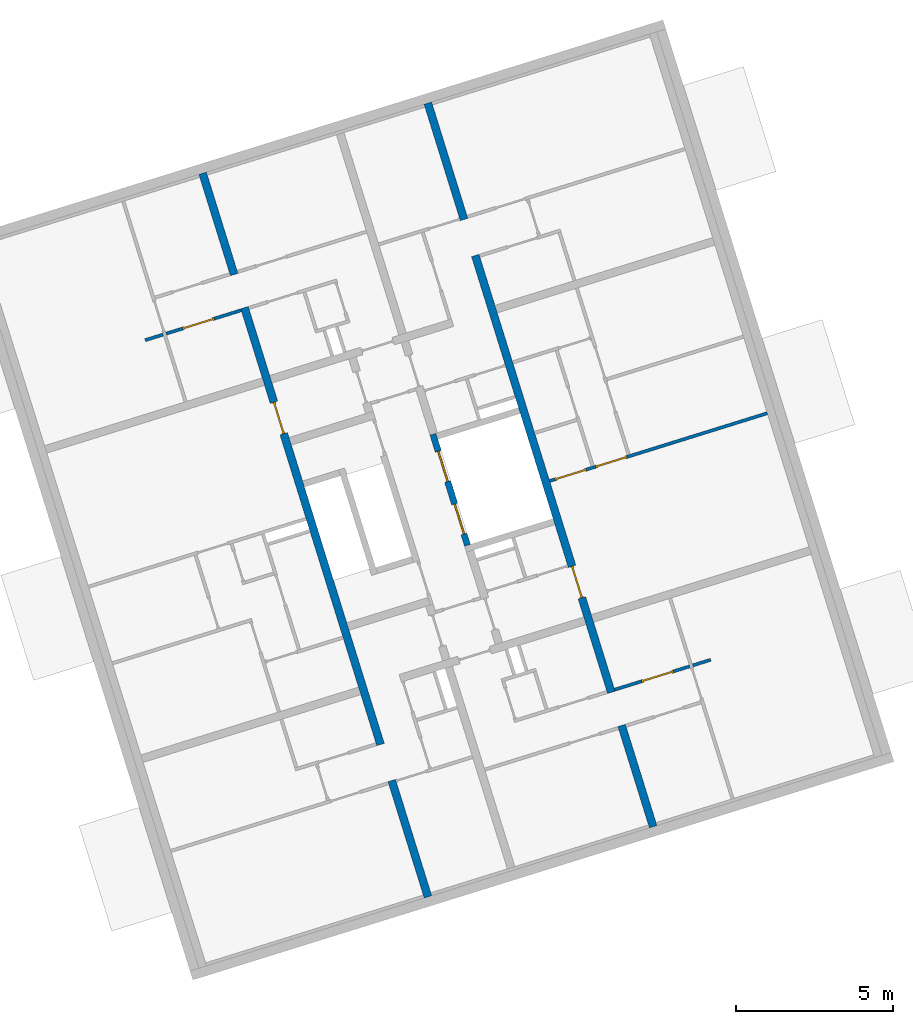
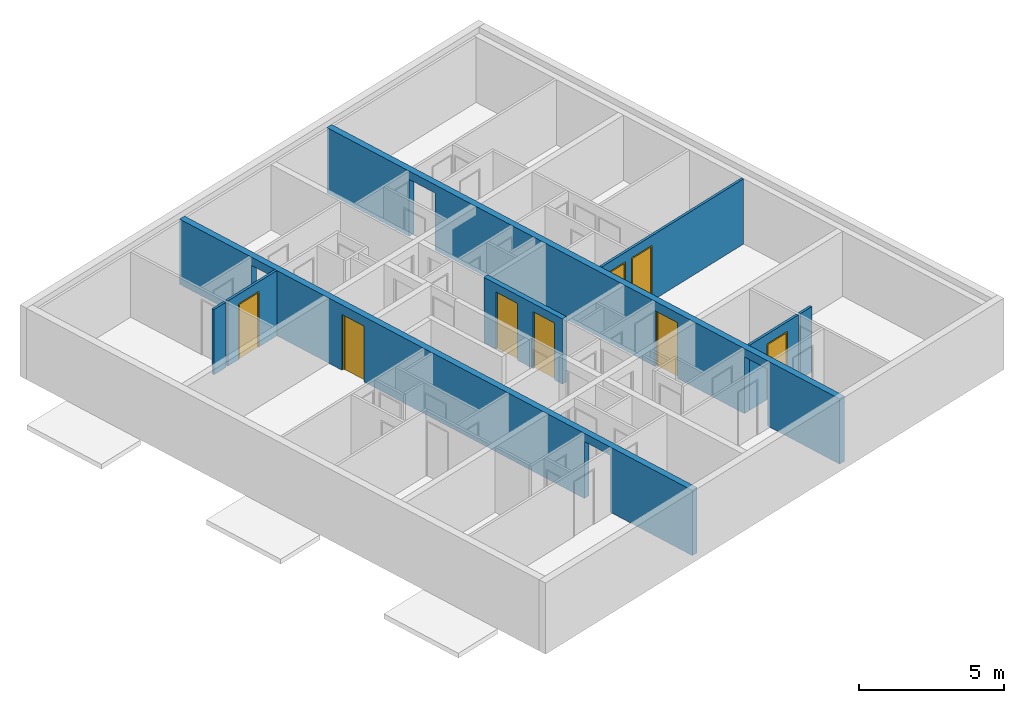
# One storey, part 8 of 9: 8 doors, 6 walls, 14 openings.
"""IFC4 building model written with IfcOpenShell, lengths in metres."""

import ifcopenshell
import ifcopenshell.guid

model = None  # the IFC model being written
_history = None  # IfcOwnerHistory: only IFC2X3 demands one
_inside = {}  # id of a spatial element -> (the spatial element, [elements in it])
_under = {}  # id of a project, library or spatial element -> (it, [spatial elements below it])
_declared = {}  # id of a project -> (the project, [libraries it declares])
_typed = {}  # id of a type object -> (the type object, [elements of that type])
_made_of = {}  # id of a material, layer set ... -> (it, [elements and type objects made of it])


def new_model(schema):
    """Start an empty IFC model of exactly this schema.

    Asked for "IFC4X3", IfcOpenShell would pick the latest addendum, in which some entities
    have other attributes; the version numbers below select the first issue.
    IFC2X3 requires an IfcOwnerHistory on every rooted entity: one is made here for all.
    """
    global model, _history
    if schema == "IFC4X3":
        model = ifcopenshell.file(schema_version=(4, 3, 0, 0))
    else:
        model = ifcopenshell.file(schema=schema)
    _inside.clear()
    _under.clear()
    _declared.clear()
    _typed.clear()
    _made_of.clear()
    _history = None
    if model.schema == "IFC2X3":
        org = make("IfcOrganization", Name="unknown")
        user = make(
            "IfcPersonAndOrganization",
            ThePerson=make("IfcPerson", FamilyName="unknown"),
            TheOrganization=org,
        )
        app = make(
            "IfcApplication",
            ApplicationDeveloper=org,
            Version="unknown",
            ApplicationFullName="unknown",
            ApplicationIdentifier="unknown",
        )
        _history = make(
            "IfcOwnerHistory",
            OwningUser=user,
            OwningApplication=app,
            ChangeAction="ADDED",
            CreationDate=0,
        )
    return model


def make(cls, **values):
    """One entity of the class cls with the attributes given. An attribute that is None is left unset."""
    return model.create_entity(
        cls, **{name: value for name, value in values.items() if value is not None}
    )


def entity(cls, *values):
    """Any entity or typed value of the class cls, its attributes in the order of the schema. None: left unset."""
    e = model.create_entity(cls)
    for i, value in enumerate(values):
        if value is not None:
            e[i] = value
    return e


def rooted(cls, **values):
    """An entity with a GlobalId (a new one), such as an element, a storey or a relation."""
    return make(cls, GlobalId=ifcopenshell.guid.new(), OwnerHistory=_history, **values)


def si_unit(unit_type, name, prefix=None):
    """IfcSIUnit, for example si_unit("LENGTHUNIT", "METRE", prefix="MILLI")."""
    return make("IfcSIUnit", UnitType=unit_type, Prefix=prefix, Name=name)


def converted_unit(unit_type, name, factor, base, dimensions=None, offset=None):
    """IfcConversionBasedUnit, such as the inch: factor (a typed value) times the base unit."""
    return make(
        "IfcConversionBasedUnit"
        if offset is None
        else "IfcConversionBasedUnitWithOffset",
        ConversionOffset=offset,
        Dimensions=None
        if dimensions is None
        else entity("IfcDimensionalExponents", *dimensions),
        UnitType=unit_type,
        Name=name,
        ConversionFactor=make(
            "IfcMeasureWithUnit", ValueComponent=factor, UnitComponent=base
        ),
    )


def assignment(units):
    """IfcUnitAssignment: the units of a project."""
    return None if units is None else make("IfcUnitAssignment", Units=units)


def point(xyz):
    """IfcCartesianPoint."""
    return None if xyz is None else make("IfcCartesianPoint", Coordinates=xyz)


def direction(xyz):
    """IfcDirection."""
    return None if xyz is None else make("IfcDirection", DirectionRatios=xyz)


def frame(location, z_axis=None, x_axis=None):
    """IfcAxis2Placement3D, a coordinate frame: its origin and axes. An axis left out is left unset."""
    return make(
        "IfcAxis2Placement3D",
        Location=point(location),
        Axis=direction(z_axis),
        RefDirection=direction(x_axis),
    )


def origin():
    """The frame at (0, 0, 0) with its axes left unset."""
    return frame((0.0, 0.0, 0.0))


def place(relative_to, where):
    """IfcLocalPlacement: puts the frame where relative to a parent placement (None: the world)."""
    return make(
        "IfcLocalPlacement", PlacementRelTo=relative_to, RelativePlacement=where
    )


def context(
    kind, dimensions, precision=None, world=None, true_north=None, identifier=None
):
    """IfcGeometricRepresentationContext, for example the 3D "Model" context."""
    return make(
        "IfcGeometricRepresentationContext",
        ContextIdentifier=identifier,
        ContextType=kind,
        CoordinateSpaceDimension=dimensions,
        Precision=precision,
        WorldCoordinateSystem=world,
        TrueNorth=true_north,
    )


def subcontext(parent, identifier, kind, view, scale=None):
    """IfcGeometricRepresentationSubContext, for example "Body" below "Model"."""
    return make(
        "IfcGeometricRepresentationSubContext",
        ContextIdentifier=identifier,
        ContextType=kind,
        ParentContext=parent,
        TargetScale=scale,
        TargetView=view,
    )


def project(units=None, contexts=None):
    """IfcProject with its units and contexts."""
    return rooted(
        "IfcProject",
        Name="project",
        RepresentationContexts=contexts,
        UnitsInContext=assignment(units),
    )


def spatial(cls, under=None, at=None, **own):
    """A site, building, storey or space (cls), placed at a placement, below another one or the project."""
    s = rooted(cls, ObjectPlacement=at, **own)
    if under is not None:
        _under.setdefault(under.id(), (under, []))[1].append(s)
    return s


def point_list(points):
    """IfcCartesianPointList2D or 3D."""
    cls = (
        "IfcCartesianPointList2D" if len(points[0]) == 2 else "IfcCartesianPointList3D"
    )
    return make(cls, CoordList=points)


def indexed_curve(points, segments=None, self_intersect=None):
    """IfcIndexedPolyCurve: lines and arcs through numbered points (the first is 1)."""
    return make(
        "IfcIndexedPolyCurve",
        Points=point_list(points),
        Segments=segments,
        SelfIntersect=self_intersect,
    )


def outline(outer, holes=None, kind="AREA"):
    """IfcArbitraryClosedProfileDef: a profile drawn as a closed curve; with holes, ...WithVoids."""
    if holes is None:
        return make("IfcArbitraryClosedProfileDef", ProfileType=kind, OuterCurve=outer)
    return make(
        "IfcArbitraryProfileDefWithVoids",
        ProfileType=kind,
        OuterCurve=outer,
        InnerCurves=holes,
    )


def extrude(swept, where, along, depth):
    """IfcExtrudedAreaSolid: the profile swept, set in the frame where, extruded along a direction by depth."""
    return make(
        "IfcExtrudedAreaSolid",
        SweptArea=swept,
        Position=where,
        ExtrudedDirection=direction(along),
        Depth=depth,
    )


def polygons(points, faces, closed=None, point_numbers=None):
    """IfcPolygonalFaceSet: a face is its outer loop, then its inner loops; points numbered from 1."""
    made = []
    for loops in faces:
        if len(loops) == 1:
            made.append(make("IfcIndexedPolygonalFace", CoordIndex=loops[0]))
        else:
            made.append(
                make(
                    "IfcIndexedPolygonalFaceWithVoids",
                    CoordIndex=loops[0],
                    InnerCoordIndices=loops[1:],
                )
            )
    return make(
        "IfcPolygonalFaceSet",
        Coordinates=point_list(points),
        Closed=closed,
        Faces=made,
        PnIndex=point_numbers,
    )


def shape(context_of_items, identifier, shape_type, items):
    """IfcShapeRepresentation: the items that make up one representation, for example the "Body"."""
    return make(
        "IfcShapeRepresentation",
        ContextOfItems=context_of_items,
        RepresentationIdentifier=identifier,
        RepresentationType=shape_type,
        Items=items,
    )


def source(mapping_origin, context_of_items, identifier, shape_type, items):
    """IfcRepresentationMap: a shape defined once, which mapped items show again and again."""
    return make(
        "IfcRepresentationMap",
        MappingOrigin=mapping_origin,
        MappedRepresentation=shape(context_of_items, identifier, shape_type, items),
    )


def transform(
    local_origin,
    x_axis=None,
    y_axis=None,
    z_axis=None,
    scale=None,
    scale2=None,
    scale3=None,
    uniform=True,
):
    """IfcCartesianTransformationOperator3D, or its non-uniform kind. x_axis, y_axis, z_axis: its Axis1, 2, 3."""
    if uniform:
        return make(
            "IfcCartesianTransformationOperator3D",
            Axis1=direction(x_axis),
            Axis2=direction(y_axis),
            LocalOrigin=point(local_origin),
            Scale=scale,
            Axis3=direction(z_axis),
        )
    return make(
        "IfcCartesianTransformationOperator3DnonUniform",
        Axis1=direction(x_axis),
        Axis2=direction(y_axis),
        LocalOrigin=point(local_origin),
        Scale=scale,
        Axis3=direction(z_axis),
        Scale2=scale2,
        Scale3=scale3,
    )


def mapped(mapping_source, mapping_target):
    """IfcMappedItem: shows the shape of a source again, moved by a transform."""
    return make(
        "IfcMappedItem", MappingSource=mapping_source, MappingTarget=mapping_target
    )


def material(Name=None, Category=None):
    """IfcMaterial."""
    return make("IfcMaterial", Name=Name, Category=Category)


def constituent(of_material, Name=None, Category=None, fraction=None):
    """IfcMaterialConstituent: one of the materials an element consists of."""
    return make(
        "IfcMaterialConstituent",
        Name=Name,
        Material=of_material,
        Fraction=fraction,
        Category=Category,
    )


def constituent_set(constituents=None, Name=None):
    """IfcMaterialConstituentSet."""
    return make(
        "IfcMaterialConstituentSet", Name=Name, MaterialConstituents=constituents
    )


def made_of(thing, what):
    """Note that an element or type object is made of a material, layer set ...; save() writes the relation."""
    if what is not None:
        _made_of.setdefault(what.id(), (what, []))[1].append(thing)
    return thing


def type_object(cls, material=None, **own):
    """A type object (cls), such as IfcWallType, which elements share."""
    return made_of(rooted(cls, **own), material)


def type_shapes(of_type, sources):
    """Give a type object the sources (RepresentationMaps) that its elements show as mapped items."""
    of_type.RepresentationMaps = sources


def element(
    cls,
    number,
    at=None,
    inside=None,
    cuts=None,
    type_object=None,
    material=None,
    context=None,
    identifier="Body",
    shape_type=None,
    held_by="IfcProductDefinitionShape",
    body=None,
    shapes=None,
    **own,
):
    """One element of the class cls, such as IfcWall. Its Tag is "e" and its number.

    at: its placement. inside: the storey or other place that contains it. cuts: it is an
    opening in that element (IfcRelVoidsElement). A single representation is given by context,
    identifier, shape_type and body (its items); several are given by shapes. held_by: the class
    of the entity that holds the representations. save() writes the other relations.
    """
    e = rooted(cls, Tag="e%d" % number, ObjectPlacement=at, **own)
    if body is not None:
        shapes = [shape(context, identifier, shape_type, body)]
    if shapes is not None:
        e.Representation = make(held_by, Representations=shapes)
    if inside is not None:
        _inside.setdefault(inside.id(), (inside, []))[1].append(e)
    if cuts is not None:
        rooted(
            "IfcRelVoidsElement", RelatingBuildingElement=cuts, RelatedOpeningElement=e
        )
    if type_object is not None:
        _typed.setdefault(type_object.id(), (type_object, []))[1].append(e)
    return made_of(e, material)


def fill(opening, filler):
    """IfcRelFillsElement: the door or window that sits in an opening."""
    return rooted(
        "IfcRelFillsElement",
        RelatingOpeningElement=opening,
        RelatedBuildingElement=filler,
    )


def aggregate(whole, parts):
    """IfcRelAggregates: a whole, such as a stair, and the parts it consists of."""
    return rooted("IfcRelAggregates", RelatingObject=whole, RelatedObjects=parts)


def save(model, path):
    """Write the relations noted so far, then the file.

    IfcRelAggregates (storeys below a building ...), IfcRelContainedInSpatialStructure (elements
    in a storey), IfcRelDefinesByType, IfcRelAssociatesMaterial and IfcRelDeclares: one each for
    every whole, place, type object, material and project.
    """
    for whole, parts in _under.values():
        aggregate(whole, parts)
    for where, things in _inside.values():
        rooted(
            "IfcRelContainedInSpatialStructure",
            RelatedElements=things,
            RelatingStructure=where,
        )
    for kind, things in _typed.values():
        rooted("IfcRelDefinesByType", RelatedObjects=things, RelatingType=kind)
    for what, things in _made_of.values():
        rooted("IfcRelAssociatesMaterial", RelatedObjects=things, RelatingMaterial=what)
    for by, libraries in _declared.values():
        rooted("IfcRelDeclares", RelatingContext=by, RelatedDefinitions=libraries)
    model.write(path)


model = new_model("IFC4")

# Units and contexts
model_context = context("Model", 3, precision=1e-05, world=origin(), true_north=direction((6.12323399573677e-17, 1.0)))
body_context = subcontext(model_context, "Body", "Model", "MODEL_VIEW")
ifc_project = project(units=[si_unit("LENGTHUNIT", "METRE"), si_unit("AREAUNIT", "SQUARE_METRE"), converted_unit("PLANEANGLEUNIT", "DEGREE", entity("IfcPlaneAngleMeasure", 0.0174532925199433), si_unit("PLANEANGLEUNIT", "RADIAN"), dimensions=[0, 0, 0, 0, 0, 0, 0]), si_unit("VOLUMEUNIT", "CUBIC_METRE")], contexts=[model_context])

# Site, building, storey
site_placement = place(None, frame((13.1347999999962, 11.9886000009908, 0.0), z_axis=(0.0, 0.0, 1.0), x_axis=(0.954770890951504, 0.297342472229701, 0.0)))
site = spatial("IfcSite", under=ifc_project, at=site_placement, Name="Schiehaven", CompositionType="ELEMENT")
building_placement = place(site_placement, origin())
building = spatial("IfcBuilding", under=site, at=building_placement, Name="VORM huis", CompositionType="ELEMENT")
storey_placement = place(building_placement, frame((0.0, 0.0, 24.9)))
storey = spatial("IfcBuildingStorey", under=building, at=storey_placement, Name="08 achtste verdieping", CompositionType="ELEMENT", Elevation=24.9)

# Wall, openings, door
ifc_material_1 = material(Name="beton_gewapend_ihw", Category="Miscellaneous")
wall_type_1 = type_object("IfcWallType", Name="Basic Wall:28_WA_skelet_wand 250mm_gen", PredefinedType="STANDARD")
wall_1_placement = place(storey_placement, frame((72.5, 5.0, 0.0), z_axis=(0.0, 0.0, 1.0), x_axis=(0.0, 1.0, 0.0)))
wall_1 = element("IfcWall", 1, at=wall_1_placement, inside=storey, type_object=wall_type_1, material=ifc_material_1, Name="Constructieve wand", ObjectType="Wand", PredefinedType="NOTDEFINED", context=body_context, shape_type="Tessellation", body=[
    polygons([(8.67499999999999, -0.125000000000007, 2.34999999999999), (8.67499999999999, -0.125000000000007, 0.0), (19.0250000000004, -0.125000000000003, 0.0), (19.0250000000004, -0.125000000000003, 2.4), (20.2250000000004, -0.125000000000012, 2.4), (20.2250000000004, -0.125000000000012, 0.0), (24.1, -0.125000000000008, 0.0), (24.1, -0.125000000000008, 2.75), (0.0, -0.125000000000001, 2.75), (1.08286712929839e-15, -0.125000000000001, 0.0), (3.37500000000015, -0.125000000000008, 0.0), (3.37500000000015, -0.125000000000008, 2.4), (4.47500000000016, -0.124999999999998, 2.4), (4.47500000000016, -0.124999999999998, 0.0), (7.62499999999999, -0.125000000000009, 0.0), (7.62499999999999, -0.125000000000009, 2.34999999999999), (19.0250000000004, 0.124999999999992, 0.0), (8.675, 0.124999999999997, 0.0), (8.675, 0.124999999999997, 2.34999999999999), (7.62499999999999, 0.125000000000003, 2.34999999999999), (7.62499999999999, 0.125000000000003, 0.0), (7.025, 0.124999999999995, 0.0), (6.775, 0.12499999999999, 0.0), (4.47500000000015, 0.124999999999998, 0.0), (4.47500000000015, 0.124999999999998, 2.4), (3.37500000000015, 0.124999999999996, 2.4), (3.37500000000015, 0.124999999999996, 0.0), (2.16573425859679e-15, 0.124999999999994, 0.0), (2.16573425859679e-15, 0.124999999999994, 2.75), (6.775, 0.12499999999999, 2.75), (7.025, 0.124999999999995, 2.75), (24.1, 0.124999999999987, 2.75), (24.1, 0.124999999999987, 0.0), (20.2250000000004, 0.124999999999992, 0.0), (20.2250000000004, 0.124999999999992, 2.4), (19.0250000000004, 0.124999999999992, 2.4)], [[[1, 2, 3, 4, 5, 6, 7, 8, 9, 10, 11, 12, 13, 14, 15, 16]], [[17, 18, 19, 20, 21, 22, 23, 24, 25, 26, 27, 28, 29, 30, 31, 32, 33, 34, 35, 36]], [[10, 28, 27, 11]], [[8, 7, 33, 32]], [[9, 8, 32, 31, 30, 29]], [[10, 9, 29, 28]], [[12, 26, 25, 13]], [[26, 12, 11, 27]], [[13, 25, 24, 14]], [[4, 36, 35, 5]], [[36, 4, 3, 17]], [[5, 35, 34, 6]], [[21, 20, 16, 15]], [[19, 18, 2, 1]], [[20, 19, 1, 16]], [[15, 14, 24, 23, 22, 21]], [[3, 2, 18, 17]], [[33, 7, 6, 34]]], closed=True),
])
opening_1_placement = place(wall_1_placement, origin())
element("IfcOpeningElement", 2, at=opening_1_placement, cuts=wall_1, Name="Constructieve wand", PredefinedType="OPENING", context=body_context, shape_type="SweptSolid", body=[
    extrude(outline(indexed_curve([(-1.2, -0.550000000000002), (1.2, -0.550000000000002), (1.2, 0.550000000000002), (-1.2, 0.550000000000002), (-1.2, -0.550000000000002)], self_intersect=False)), frame((3.92500000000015, -0.124999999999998, 1.2), z_axis=(0.0, 1.0, 0.0), x_axis=(0.0, 0.0, -1.0)), (0.0, 0.0, 1.0), 0.249999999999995),
])
opening_2_placement = place(wall_1_placement, origin())
element("IfcOpeningElement", 3, at=opening_2_placement, cuts=wall_1, Name="Constructieve wand", PredefinedType="OPENING", context=body_context, shape_type="SweptSolid", body=[
    extrude(outline(indexed_curve([(-1.2, -0.599999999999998), (1.2, -0.599999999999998), (1.2, 0.599999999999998), (-1.2, 0.599999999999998), (-1.2, -0.599999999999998)], self_intersect=False)), frame((19.6250000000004, -0.125000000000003, 1.2), z_axis=(0.0, 1.0, 0.0), x_axis=(0.0, 0.0, -1.0)), (0.0, 0.0, 1.0), 0.249999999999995),
])
opening_3_placement = place(wall_1_placement, frame((7.62499999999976, -0.124999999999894, 0.0)))
opening_3 = element("IfcOpeningElement", 4, at=opening_3_placement, cuts=wall_1, Name="Binnendeur", PredefinedType="OPENING", context=body_context, shape_type="SweptSolid", body=[
    extrude(outline(indexed_curve([(2.34999999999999, 1.08286712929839e-15), (2.34999999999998, 1.05), (0.0, 1.05), (2.16573425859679e-15, 1.08286712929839e-15), (2.34999999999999, 1.08286712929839e-15)], self_intersect=False)), frame((0.0, 0.0, 0.0), z_axis=(0.0, 1.0, 0.0), x_axis=(0.0, 0.0, 1.0)), (0.0, 0.0, 1.0), 0.25),
])
ifc_material_2 = material(Name="PD_a_binnenwandopeningen", Category="Miscellaneous")
ifc_constituent_1 = constituent(ifc_material_2, Name="PD_a_binnenwandopeningen", Category="Miscellaneous")
ifc_material_3 = material(Name="metaal_aluminium_ntb", Category="Miscellaneous")
ifc_constituent_2 = constituent(ifc_material_3, Name="metaal_aluminium_ntb", Category="Miscellaneous")
ifc_constituent_set_1 = constituent_set(constituents=[ifc_constituent_1, ifc_constituent_2])
ifc_constituent_3 = constituent(ifc_material_2, Name="PD_a_binnenwandopeningen", Category="Miscellaneous")
ifc_constituent_4 = constituent(ifc_material_3, Name="Panel", Category="Miscellaneous")
ifc_constituent_set_2 = constituent_set(constituents=[ifc_constituent_3, ifc_constituent_4])
door_type_1 = type_object("IfcDoorType", Name="32_DO_binnendeur enkel:binnendeur", OperationType="REVOLVING", PredefinedType="DOOR", material=ifc_constituent_set_2)
shared_shape_1 = source(origin(), body_context, "Body", "SweptSolid", [
    extrude(outline(indexed_curve([(0.475, -1.16249999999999), (0.525000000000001, -1.16249999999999), (0.525000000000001, 1.18749999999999), (-0.525000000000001, 1.18749999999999), (-0.525000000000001, -1.16249999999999), (-0.475, -1.16249999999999), (-0.475, 1.13749999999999), (0.475, 1.13749999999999), (0.475, -1.16249999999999)], self_intersect=False)), frame((0.525000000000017, 0.174999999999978, 1.16249999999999), z_axis=(0.0, -1.0, 0.0), x_axis=(1.0, 0.0, 0.0)), (0.0, 0.0, 1.0), 0.1),
    extrude(outline(indexed_curve([(-0.475, -0.025), (0.475, -0.025), (0.475, 0.025), (-0.475, 0.025), (-0.475, -0.025)], self_intersect=False)), frame((0.525000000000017, 0.12499999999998, 0.0)), (0.0, 0.0, 1.0), 2.29999999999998),
])
type_shapes(door_type_1, [shared_shape_1])
door_1_placement = place(opening_3_placement, origin())
door_1 = element("IfcDoor", 5, at=door_1_placement, inside=storey, type_object=door_type_1, material=ifc_constituent_set_1, Name="Binnendeur", ObjectType="Deur", OperationType="REVOLVING", OverallHeight=2.34999999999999, OverallWidth=1.05, PredefinedType="DOOR", context=body_context, shape_type="MappedRepresentation", body=[
    mapped(shared_shape_1, transform((0.0, 0.0, 0.0), scale=1.0)),
])
fill(opening_3, door_1)

wall_2_placement = place(storey_placement, frame((65.0, 29.0999999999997, 0.0), z_axis=(0.0, 0.0, 1.0), x_axis=(0.0, -1.0, 0.0)))
wall_2 = element("IfcWall", 6, at=wall_2_placement, inside=storey, type_object=wall_type_1, material=ifc_material_1, Name="Constructieve wand", ObjectType="Wand", PredefinedType="NOTDEFINED", context=body_context, shape_type="Tessellation", body=[
    polygons([(8.67499999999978, -0.125000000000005, 2.34999999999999), (8.67499999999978, -0.125000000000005, 0.0), (19.0249999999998, -0.125000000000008, 0.0), (19.0249999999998, -0.125000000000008, 2.4), (20.2249999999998, -0.125000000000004, 2.4), (20.2249999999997, -0.125000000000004, 0.0), (24.1, -0.125000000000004, 0.0), (24.1, -0.125000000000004, 2.75), (4.33146851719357e-15, -0.124999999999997, 2.75), (4.33146851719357e-15, -0.124999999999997, 0.0), (3.37499999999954, -0.125000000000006, 0.0), (3.37499999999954, -0.125000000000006, 2.4), (4.47499999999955, -0.125000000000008, 2.4), (4.47499999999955, -0.125000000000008, 0.0), (7.62499999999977, -0.124999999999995, 0.0), (7.62499999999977, -0.124999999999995, 2.34999999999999), (19.0249999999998, 0.124999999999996, 0.0), (8.67499999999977, 0.124999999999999, 0.0), (8.67499999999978, 0.124999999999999, 2.34999999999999), (7.62499999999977, 0.125, 2.34999999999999), (7.62499999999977, 0.125, 0.0), (7.02500000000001, 0.124999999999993, 0.0), (6.77500000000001, 0.124999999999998, 0.0), (4.47499999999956, 0.124999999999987, 0.0), (4.47499999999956, 0.124999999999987, 2.4), (3.37499999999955, 0.124999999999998, 2.4), (3.37499999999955, 0.124999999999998, 0.0), (0.0, 0.124999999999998, 0.0), (0.0, 0.124999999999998, 2.75), (6.77500000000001, 0.124999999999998, 2.75), (7.02500000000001, 0.124999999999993, 2.75), (24.1, 0.125, 2.75), (24.1, 0.125, 0.0), (20.2249999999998, 0.125, 0.0), (20.2249999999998, 0.125, 2.4), (19.0249999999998, 0.124999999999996, 2.4)], [[[1, 2, 3, 4, 5, 6, 7, 8, 9, 10, 11, 12, 13, 14, 15, 16]], [[17, 18, 19, 20, 21, 22, 23, 24, 25, 26, 27, 28, 29, 30, 31, 32, 33, 34, 35, 36]], [[10, 28, 27, 11]], [[8, 7, 33, 32]], [[9, 8, 32, 31, 30, 29]], [[10, 9, 29, 28]], [[12, 26, 25, 13]], [[26, 12, 11, 27]], [[13, 25, 24, 14]], [[4, 36, 35, 5]], [[36, 4, 3, 17]], [[5, 35, 34, 6]], [[21, 20, 16, 15]], [[19, 18, 2, 1]], [[20, 19, 1, 16]], [[15, 14, 24, 23, 22, 21]], [[3, 2, 18, 17]], [[33, 7, 6, 34]]], closed=True),
])
opening_4_placement = place(wall_2_placement, origin())
element("IfcOpeningElement", 7, at=opening_4_placement, cuts=wall_2, Name="Constructieve wand", PredefinedType="OPENING", context=body_context, shape_type="SweptSolid", body=[
    extrude(outline(indexed_curve([(-1.2, -0.550000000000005), (1.2, -0.550000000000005), (1.2, 0.550000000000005), (-1.2, 0.550000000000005), (-1.2, -0.550000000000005)], self_intersect=False)), frame((3.92499999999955, -0.125000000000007, 1.2), z_axis=(0.0, 1.0, 0.0), x_axis=(0.0, 0.0, -1.0)), (0.0, 0.0, 1.0), 0.249999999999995),
])
opening_5_placement = place(wall_2_placement, origin())
element("IfcOpeningElement", 8, at=opening_5_placement, cuts=wall_2, Name="Constructieve wand", PredefinedType="OPENING", context=body_context, shape_type="SweptSolid", body=[
    extrude(outline(indexed_curve([(-1.2, -0.599999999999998), (1.2, -0.599999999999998), (1.2, 0.599999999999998), (-1.2, 0.599999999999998), (-1.2, -0.599999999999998)], self_intersect=False)), frame((19.6249999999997, -0.124999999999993, 1.2), z_axis=(0.0, 1.0, 0.0), x_axis=(0.0, 0.0, -1.0)), (0.0, 0.0, 1.0), 0.249999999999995),
])
opening_6_placement = place(wall_2_placement, frame((7.62499999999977, -0.125000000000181, 0.0)))
opening_6 = element("IfcOpeningElement", 9, at=opening_6_placement, cuts=wall_2, Name="Binnendeur", PredefinedType="OPENING", context=body_context, shape_type="SweptSolid", body=[
    extrude(outline(indexed_curve([(2.34999999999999, 2.56961408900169e-29), (2.34999999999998, 1.05), (0.0, 1.05), (2.16573425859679e-15, 2.56961408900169e-29), (2.34999999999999, 2.56961408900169e-29)], self_intersect=False)), frame((0.0, 0.0, 0.0), z_axis=(0.0, 1.0, 0.0), x_axis=(0.0, 0.0, 1.0)), (0.0, 0.0, 1.0), 0.25),
])
ifc_constituent_5 = constituent(ifc_material_2, Name="PD_a_binnenwandopeningen", Category="Miscellaneous")
ifc_constituent_6 = constituent(ifc_material_3, Name="metaal_aluminium_ntb", Category="Miscellaneous")
ifc_constituent_set_3 = constituent_set(constituents=[ifc_constituent_5, ifc_constituent_6])
door_2_placement = place(opening_6_placement, origin())
door_2 = element("IfcDoor", 10, at=door_2_placement, inside=storey, type_object=door_type_1, material=ifc_constituent_set_3, Name="Binnendeur", ObjectType="Deur", OperationType="REVOLVING", OverallHeight=2.34999999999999, OverallWidth=1.05, PredefinedType="DOOR", context=body_context, shape_type="MappedRepresentation", body=[
    mapped(shared_shape_1, transform((0.0, 0.0, 0.0), scale=1.0)),
])
fill(opening_6, door_2)

# Wall, openings, doors
ifc_material_4 = material(Name="beton_gewapend_prefab-element", Category="Miscellaneous")
wall_type_2 = type_object("IfcWallType", Name="Basic Wall:28_WA_skelet_wand 200mm_gen", PredefinedType="STANDARD")
wall_3_placement = place(storey_placement, frame((69.5249999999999, 15.2999999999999, 0.0), z_axis=(0.0, 0.0, 1.0), x_axis=(0.0, 1.0, 0.0)))
wall_3 = element("IfcWall", 11, at=wall_3_placement, inside=storey, type_object=wall_type_2, material=ifc_material_4, Name="Constructieve wand", ObjectType="Wand", PredefinedType="NOTDEFINED", context=body_context, shape_type="Tessellation", body=[
    polygons([(3.70000000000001, -0.0999999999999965, 2.75), (3.50000000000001, -0.0999999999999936, 2.75), (2.16573425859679e-15, -0.0999999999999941, 2.75), (2.16573425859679e-15, -0.0999999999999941, 0.0), (0.3749999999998, -0.0999999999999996, 0.0), (0.3749999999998, -0.0999999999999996, 2.39999999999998), (1.3749999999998, -0.099999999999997, 2.39999999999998), (1.3749999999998, -0.099999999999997, 0.0), (2.1249999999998, -0.100000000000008, 0.0), (2.1249999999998, -0.0999999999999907, 2.39999999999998), (3.1249999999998, -0.0999999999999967, 2.39999999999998), (3.1249999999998, -0.0999999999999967, 0.0), (3.50000000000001, -0.0999999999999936, 0.0), (3.70000000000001, -0.0999999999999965, 0.0), (4.33146851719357e-15, 0.100000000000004, 2.75), (3.70000000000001, 0.0999999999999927, 2.75), (3.70000000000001, 0.0999999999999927, 0.0), (3.1249999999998, 0.100000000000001, 0.0), (3.1249999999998, 0.100000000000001, 2.39999999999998), (2.1249999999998, 0.0999999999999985, 2.39999999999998), (2.1249999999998, 0.0999999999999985, 0.0), (1.3749999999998, 0.10000000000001, 0.0), (1.3749999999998, 0.10000000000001, 2.39999999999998), (0.374999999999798, 0.0999999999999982, 2.39999999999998), (0.374999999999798, 0.0999999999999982, 0.0), (4.33146851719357e-15, 0.100000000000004, 0.0)], [[[1, 2, 3, 4, 5, 6, 7, 8, 9, 10, 11, 12, 13, 14]], [[15, 16, 17, 18, 19, 20, 21, 22, 23, 24, 25, 26]], [[5, 4, 26, 25]], [[3, 2, 1, 16, 15]], [[7, 23, 22, 8]], [[24, 6, 5, 25]], [[23, 7, 6, 24]], [[11, 19, 18, 12]], [[20, 10, 9, 21]], [[19, 11, 10, 20]], [[1, 14, 17, 16]], [[4, 3, 15, 26]], [[8, 22, 21, 9]], [[17, 14, 13, 12, 18]]], closed=True),
])
opening_7_placement = place(wall_3_placement, frame((-15.2999999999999, 69.5249999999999, 0.0), z_axis=(0.0, 0.0, 1.0), x_axis=(0.0, -1.0, 0.0)))
opening_7 = element("IfcOpeningElement", 12, at=opening_7_placement, cuts=wall_3, Name="Brandweerlift", PredefinedType="OPENING", context=body_context, shape_type="SweptSolid", body=[
    extrude(outline(indexed_curve([(-1.19999999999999, -0.500000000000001), (1.19999999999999, -0.500000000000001), (1.19999999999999, 0.499999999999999), (-1.19999999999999, 0.499999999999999), (-1.19999999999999, -0.500000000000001)], self_intersect=False)), frame((70.0126380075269, 16.1749999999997, 1.19999999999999), z_axis=(-1.0, 0.0, 0.0), x_axis=(0.0, 0.0, -1.0)), (0.0, 0.0, 1.0), 0.756310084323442),
])
opening_8_placement = place(wall_3_placement, frame((-15.2999999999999, 69.5249999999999, 0.0), z_axis=(0.0, 0.0, 1.0), x_axis=(0.0, -1.0, 0.0)))
opening_8 = element("IfcOpeningElement", 13, at=opening_8_placement, cuts=wall_3, Name="Brandweerlift", PredefinedType="OPENING", context=body_context, shape_type="SweptSolid", body=[
    extrude(outline(indexed_curve([(-1.19999999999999, -0.500000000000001), (1.19999999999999, -0.500000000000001), (1.19999999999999, 0.499999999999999), (-1.19999999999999, 0.499999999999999), (-1.19999999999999, -0.500000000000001)], self_intersect=False)), frame((70.0126380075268, 17.9249999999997, 1.19999999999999), z_axis=(-1.0, 0.0, 0.0), x_axis=(0.0, 0.0, -1.0)), (0.0, 0.0, 1.0), 0.756310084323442),
])
door_type_2 = type_object("IfcDoorType", Name="66_WI_liftdeur:brandweerlift - tweezijdig toegankelijk", OperationType="NOTDEFINED", PredefinedType="DOOR", material=ifc_material_3)
shared_shape_2 = source(origin(), body_context, "Body", "SweptSolid", [
    extrude(outline(indexed_curve([(-0.25, -0.0250000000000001), (0.25, -0.0249999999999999), (0.25, 0.0250000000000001), (-0.25, 0.0249999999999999), (-0.25, -0.0250000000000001)], self_intersect=False)), frame((0.750000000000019, -0.28763800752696, 0.0)), (0.0, 0.0, 1.0), 2.39999999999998),
    extrude(outline(indexed_curve([(-0.25, -0.0250000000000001), (0.25, -0.0249999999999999), (0.25, 0.0250000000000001), (-0.25, 0.0249999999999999), (-0.25, -0.0250000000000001)], self_intersect=False)), frame((0.250000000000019, -0.287638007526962, 0.0)), (0.0, 0.0, 1.0), 2.39999999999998),
])
type_shapes(door_type_2, [shared_shape_2])
door_3_placement = place(opening_7_placement, frame((69.2373619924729, 15.6749999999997, 0.0), z_axis=(0.0, 0.0, 1.0), x_axis=(0.0, 1.0, 0.0)))
door_3 = element("IfcDoor", 14, at=door_3_placement, inside=storey, type_object=door_type_2, material=ifc_material_3, Name="Brandweerlift", ObjectType="Transport", OperationType="NOTDEFINED", OverallHeight=2.39999999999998, OverallWidth=1.0, PredefinedType="DOOR", context=body_context, shape_type="MappedRepresentation", body=[
    mapped(shared_shape_2, transform((0.0, 0.0, 0.0), scale=1.0)),
])
fill(opening_7, door_3)
door_4_placement = place(opening_8_placement, frame((69.2373619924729, 17.4249999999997, 0.0), z_axis=(0.0, 0.0, 1.0), x_axis=(0.0, 1.0, 0.0)))
door_4 = element("IfcDoor", 15, at=door_4_placement, inside=storey, type_object=door_type_2, material=ifc_material_3, Name="Brandweerlift", ObjectType="Transport", OperationType="NOTDEFINED", OverallHeight=2.39999999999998, OverallWidth=1.0, PredefinedType="DOOR", context=body_context, shape_type="MappedRepresentation", body=[
    mapped(shared_shape_2, transform((0.0, 0.0, 0.0), scale=1.0)),
])
fill(opening_8, door_4)

# Wall, openings, door
ifc_material_5 = material(Name="ntb_ntb_ntb", Category="Miscellaneous")
wall_type_3 = type_object("IfcWallType", Name="Basic Wall:22_WA_afbouw_binnenwand 100mm_gen", PredefinedType="STANDARD")
wall_4_placement = place(storey_placement, frame((72.625, 9.52499999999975, 0.0)))
wall_4 = element("IfcWall", 16, at=wall_4_placement, inside=storey, type_object=wall_type_3, material=ifc_material_5, Name="Binnenwand", ObjectType="Wand", PredefinedType="NOTDEFINED", context=body_context, shape_type="Tessellation", body=[
    polygons([(-5.76685161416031e-15, -0.0500000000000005, 2.75), (-5.76685161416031e-15, -0.0500000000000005, 0.0), (0.899999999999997, -0.0500000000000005, 0.0), (0.899999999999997, -0.0500000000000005, 2.34999999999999), (1.95, -0.0500000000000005, 2.34999999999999), (1.95, -0.0500000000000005, 0.0), (2.50000000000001, -0.0500000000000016, 0.0), (2.50000000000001, -0.0500000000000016, 2.75), (-4.09055660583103e-15, 0.0499999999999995, 0.0), (0.899999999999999, 0.0500000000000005, 0.0), (-4.09055660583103e-15, 0.0499999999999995, 2.75), (1.95, 0.0500000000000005, 2.34999999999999), (1.95, 0.0500000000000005, 0.0), (0.899999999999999, 0.0500000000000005, 2.34999999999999), (2.50000000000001, 0.0499999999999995, 0.0), (2.50000000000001, 0.0499999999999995, 2.75)], [[[1, 2, 3, 4, 5, 6, 7, 8]], [[2, 9, 10, 3]], [[2, 1, 11, 9]], [[6, 5, 12, 13]], [[4, 3, 10, 14]], [[5, 4, 14, 12]], [[8, 7, 15, 16]], [[11, 1, 8, 16]], [[6, 13, 15, 7]], [[9, 11, 16, 15, 13, 12, 14, 10]]], closed=True),
    polygons([(3.20000000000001, 0.0499999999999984, 2.75), (3.20000000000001, 0.0499999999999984, 0.0), (2.60000000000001, 0.0499999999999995, 0.0), (2.60000000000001, 0.0499999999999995, 2.75), (3.20000000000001, -0.0500000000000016, 2.75), (3.20000000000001, -0.0500000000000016, 0.0), (2.60000000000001, -0.0500000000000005, 2.75), (2.60000000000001, -0.0500000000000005, 0.0)], [[[1, 2, 3, 4]], [[5, 6, 2, 1]], [[5, 1, 4, 7]], [[8, 7, 4, 3]], [[2, 6, 8, 3]], [[6, 5, 7, 8]]], closed=True),
])
opening_9_placement = place(storey_placement, frame((72.625, 9.52499999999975, 0.0)))
element("IfcOpeningElement", 17, at=opening_9_placement, cuts=wall_4, Name="Binnenwand:1", PredefinedType="OPENING", context=body_context, shape_type="SweptSolid", body=[
    extrude(outline(indexed_curve([(-1.375, -0.0500000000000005), (1.375, -0.0500000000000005), (1.375, 0.0500000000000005), (-1.375, 0.0499999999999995), (-1.375, -0.0500000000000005)], self_intersect=False)), frame((2.50000000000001, 0.0, 1.375), z_axis=(1.0, 0.0, 0.0), x_axis=(0.0, 0.0, -1.0)), (0.0, 0.0, 1.0), 0.100000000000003),
])
opening_10_placement = place(wall_4_placement, frame((1.95, 0.0500000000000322, 0.0)))
opening_10 = element("IfcOpeningElement", 18, at=opening_10_placement, cuts=wall_4, Name="Binnendeur", PredefinedType="OPENING", context=body_context, shape_type="SweptSolid", body=[
    extrude(outline(indexed_curve([(2.34999999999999, 4.67982478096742e-30), (2.34999999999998, 1.05), (0.0, 1.05), (2.16573425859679e-15, 4.67982478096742e-30), (2.34999999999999, 4.67982478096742e-30)], self_intersect=False)), frame((0.0, 0.0, 0.0), z_axis=(0.0, -1.0, 0.0), x_axis=(0.0, 0.0, 1.0)), (0.0, 0.0, 1.0), 0.1),
])
ifc_constituent_7 = constituent(ifc_material_2, Name="PD_a_binnenwandopeningen", Category="Miscellaneous")
ifc_constituent_8 = constituent(ifc_material_3, Name="metaal_aluminium_ntb", Category="Miscellaneous")
ifc_constituent_set_4 = constituent_set(constituents=[ifc_constituent_7, ifc_constituent_8])
ifc_constituent_9 = constituent(ifc_material_2, Name="PD_a_binnenwandopeningen", Category="Miscellaneous")
ifc_constituent_10 = constituent(ifc_material_3, Name="Panel", Category="Miscellaneous")
ifc_constituent_set_5 = constituent_set(constituents=[ifc_constituent_9, ifc_constituent_10])
door_type_3 = type_object("IfcDoorType", Name="32_DO_binnendeur enkel:binnendeur", OperationType="REVOLVING", PredefinedType="DOOR", material=ifc_constituent_set_5)
shared_shape_3 = source(origin(), body_context, "Body", "SweptSolid", [
    extrude(outline(indexed_curve([(0.475, -1.16249999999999), (0.525, -1.16249999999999), (0.525, 1.18749999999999), (-0.525, 1.18749999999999), (-0.525, -1.16249999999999), (-0.475, -1.16249999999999), (-0.475, 1.13749999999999), (0.475, 1.13749999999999), (0.475, -1.16249999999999)], self_intersect=False)), frame((0.525000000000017, 0.100000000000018, 1.16249999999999), z_axis=(0.0, -1.0, 0.0), x_axis=(1.0, 0.0, 0.0)), (0.0, 0.0, 1.0), 0.1),
    extrude(outline(indexed_curve([(-0.475, -0.025), (0.475, -0.025), (0.475, 0.025), (-0.475, 0.025), (-0.475, -0.025)], self_intersect=False)), frame((0.525000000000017, 0.0499999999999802, 0.0)), (0.0, 0.0, 1.0), 2.29999999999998),
])
type_shapes(door_type_3, [shared_shape_3])
door_5_placement = place(opening_10_placement, frame((0.0, 0.0, 0.0), z_axis=(0.0, 0.0, 1.0), x_axis=(-1.0, 0.0, 0.0)))
door_5 = element("IfcDoor", 19, at=door_5_placement, inside=storey, type_object=door_type_3, material=ifc_constituent_set_4, Name="Binnendeur", ObjectType="Deur", OperationType="REVOLVING", OverallHeight=2.34999999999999, OverallWidth=1.05, PredefinedType="DOOR", context=body_context, shape_type="MappedRepresentation", body=[
    mapped(shared_shape_3, transform((0.0, 0.0, 0.0), scale=1.0)),
])
fill(opening_10, door_5)

wall_5_placement = place(storey_placement, frame((64.8749999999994, 24.5750000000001, 0.0), z_axis=(0.0, 0.0, 1.0), x_axis=(-1.0, 0.0, 0.0)))
wall_5 = element("IfcWall", 20, at=wall_5_placement, inside=storey, type_object=wall_type_3, material=ifc_material_5, Name="Binnenwand", ObjectType="Wand", PredefinedType="NOTDEFINED", context=body_context, shape_type="Tessellation", body=[
    polygons([(1.78530300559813e-16, -0.0499999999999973, 2.75), (1.78530300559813e-16, -0.0499999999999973, 0.0), (0.899999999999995, -0.0499999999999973, 0.0), (0.899999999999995, -0.0499999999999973, 2.34999999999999), (1.95, -0.049999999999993, 2.34999999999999), (1.95, -0.049999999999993, 0.0), (2.49999999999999, -0.049999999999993, 0.0), (2.49999999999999, -0.049999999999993, 2.75), (1.69052121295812e-15, 0.0500000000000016, 0.0), (0.899999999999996, 0.0500000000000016, 0.0), (1.69052121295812e-15, 0.0500000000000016, 2.75), (1.95, 0.050000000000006, 2.34999999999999), (1.95, 0.050000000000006, 0.0), (0.899999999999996, 0.0500000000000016, 2.34999999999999), (2.5, 0.050000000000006, 0.0), (2.5, 0.050000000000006, 2.75)], [[[1, 2, 3, 4, 5, 6, 7, 8]], [[2, 9, 10, 3]], [[2, 1, 11, 9]], [[6, 5, 12, 13]], [[4, 3, 10, 14]], [[5, 4, 14, 12]], [[8, 7, 15, 16]], [[11, 1, 8, 16]], [[6, 13, 15, 7]], [[9, 11, 16, 15, 13, 12, 14, 10]]], closed=True),
    polygons([(3.2, 0.0500000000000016, 2.75), (3.2, 0.0500000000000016, 0.0), (2.60000000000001, 0.0500000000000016, 0.0), (2.60000000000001, 0.0500000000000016, 2.75), (3.2, -0.0499999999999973, 2.75), (3.2, -0.0499999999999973, 0.0), (2.60000000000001, -0.0499999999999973, 2.75), (2.60000000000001, -0.0499999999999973, 0.0)], [[[1, 2, 3, 4]], [[5, 6, 2, 1]], [[5, 1, 4, 7]], [[8, 7, 4, 3]], [[2, 6, 8, 3]], [[6, 5, 7, 8]]], closed=True),
])
opening_11_placement = place(storey_placement, frame((64.8749999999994, 24.5750000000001, 0.0), z_axis=(0.0, 0.0, 1.0), x_axis=(-1.0, 0.0, 0.0)))
element("IfcOpeningElement", 21, at=opening_11_placement, cuts=wall_5, Name="Binnenwand:1", PredefinedType="OPENING", context=body_context, shape_type="SweptSolid", body=[
    extrude(outline(indexed_curve([(-1.375, -0.0500000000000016), (1.375, -0.0500000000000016), (1.375, 0.0499999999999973), (-1.375, 0.0499999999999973), (-1.375, -0.0500000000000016)], self_intersect=False)), frame((2.60000000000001, 0.0, 1.375), z_axis=(-1.0, 0.0, 0.0), x_axis=(0.0, 0.0, 1.0)), (0.0, 0.0, 1.0), 0.100000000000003),
])
opening_12_placement = place(wall_5_placement, frame((1.94999999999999, 0.0500000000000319, 0.0)))
opening_12 = element("IfcOpeningElement", 22, at=opening_12_placement, cuts=wall_5, Name="Binnendeur", PredefinedType="OPENING", context=body_context, shape_type="SweptSolid", body=[
    extrude(outline(indexed_curve([(2.34999999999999, 0.0), (2.34999999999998, 1.05), (0.0, 1.05), (2.16573425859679e-15, 0.0), (2.34999999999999, 0.0)], self_intersect=False)), frame((0.0, 0.0, 0.0), z_axis=(0.0, -1.0, 0.0), x_axis=(0.0, 0.0, 1.0)), (0.0, 0.0, 1.0), 0.1),
])
ifc_constituent_11 = constituent(ifc_material_2, Name="PD_a_binnenwandopeningen", Category="Miscellaneous")
ifc_constituent_12 = constituent(ifc_material_3, Name="metaal_aluminium_ntb", Category="Miscellaneous")
ifc_constituent_set_6 = constituent_set(constituents=[ifc_constituent_11, ifc_constituent_12])
door_6_placement = place(opening_12_placement, frame((0.0, 0.0, 0.0), z_axis=(0.0, 0.0, 1.0), x_axis=(-1.0, 0.0, 0.0)))
door_6 = element("IfcDoor", 23, at=door_6_placement, inside=storey, type_object=door_type_3, material=ifc_constituent_set_6, Name="Binnendeur", ObjectType="Deur", OperationType="REVOLVING", OverallHeight=2.34999999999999, OverallWidth=1.05, PredefinedType="DOOR", context=body_context, shape_type="MappedRepresentation", body=[
    mapped(shared_shape_3, transform((0.0, 0.0, 0.0), scale=1.0)),
])
fill(opening_12, door_6)

# Wall, openings, doors
wall_6_placement = place(storey_placement, frame((72.6228357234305, 16.4749999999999, 0.0)))
wall_6 = element("IfcWall", 24, at=wall_6_placement, inside=storey, type_object=wall_type_3, material=ifc_material_5, Name="Binnenwand", ObjectType="Wand", PredefinedType="NOTDEFINED", context=body_context, shape_type="Tessellation", body=[
    polygons([(-3.00038679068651e-15, -0.0499999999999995, 0.0), (0.176082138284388, -0.0499999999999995, 0.0), (0.176082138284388, -0.0499999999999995, 2.34999999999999), (1.22608213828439, -0.0499999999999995, 2.34999999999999), (1.22608213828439, -0.0499999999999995, 0.0), (1.52716427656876, -0.0499999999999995, 0.0), (1.52716427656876, -0.0499999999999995, 2.34999999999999), (2.57716427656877, -0.0499999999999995, 2.34999999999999), (2.57716427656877, -0.0499999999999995, 0.0), (7.25216427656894, -0.0499999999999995, 0.0), (7.25216427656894, -0.0499999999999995, 2.75), (-3.00038679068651e-15, -0.0499999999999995, 2.75), (0.176082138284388, 0.0499999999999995, 2.34999999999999), (0.176082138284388, 0.0499999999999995, 0.0), (-2.70219966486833e-15, 0.0499999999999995, 0.0), (-2.70219966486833e-15, 0.0499999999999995, 2.75), (1.40216427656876, 0.0499999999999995, 2.75), (1.50216427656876, 0.0499999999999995, 2.75), (2.60216427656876, 0.0499999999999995, 2.75), (2.70216427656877, 0.0499999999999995, 2.75), (7.25216427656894, 0.0499999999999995, 2.75), (7.25216427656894, 0.0499999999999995, 0.0), (2.70216427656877, 0.0499999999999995, 0.0), (2.60216427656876, 0.0499999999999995, 0.0), (2.57716427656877, 0.0499999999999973, 0.0), (2.57716427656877, 0.0499999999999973, 2.34999999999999), (1.52716427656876, 0.0499999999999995, 2.34999999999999), (1.52716427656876, 0.0499999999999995, 0.0), (1.50216427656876, 0.0499999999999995, 0.0), (1.40216427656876, 0.0499999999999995, 0.0), (1.22608213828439, 0.0499999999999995, 0.0), (1.22608213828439, 0.0499999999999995, 2.34999999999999)], [[[1, 2, 3, 4, 5, 6, 7, 8, 9, 10, 11, 12]], [[13, 14, 15, 16, 17, 18, 19, 20, 21, 22, 23, 24, 25, 26, 27, 28, 29, 30, 31, 32]], [[15, 14, 2, 1]], [[11, 10, 22, 21]], [[12, 11, 21, 20, 19, 18, 17, 16]], [[1, 12, 16, 15]], [[9, 8, 26, 25]], [[7, 6, 28, 27]], [[8, 7, 27, 26]], [[5, 4, 32, 31]], [[3, 2, 14, 13]], [[4, 3, 13, 32]], [[31, 30, 29, 28, 6, 5]], [[25, 24, 23, 22, 10, 9]]], closed=True),
])
opening_13_placement = place(wall_6_placement, frame((2.57716427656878, 0.0500000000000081, 0.0)))
opening_13 = element("IfcOpeningElement", 25, at=opening_13_placement, cuts=wall_6, Name="Binnendeur", PredefinedType="OPENING", context=body_context, shape_type="SweptSolid", body=[
    extrude(outline(indexed_curve([(2.34999999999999, 0.0), (2.34999999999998, 1.05), (0.0, 1.05), (2.16573425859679e-15, 0.0), (2.34999999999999, 0.0)], self_intersect=False)), frame((0.0, 0.0, 0.0), z_axis=(0.0, -1.0, 0.0), x_axis=(0.0, 0.0, 1.0)), (0.0, 0.0, 1.0), 0.1),
])
opening_14_placement = place(wall_6_placement, frame((1.22608213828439, 0.0500000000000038, 0.0)))
opening_14 = element("IfcOpeningElement", 26, at=opening_14_placement, cuts=wall_6, Name="Binnendeur", PredefinedType="OPENING", context=body_context, shape_type="SweptSolid", body=[
    extrude(outline(indexed_curve([(2.34999999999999, 0.0), (2.34999999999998, 1.05), (0.0, 1.05), (2.16573425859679e-15, 0.0), (2.34999999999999, 0.0)], self_intersect=False)), frame((0.0, 0.0, 0.0), z_axis=(0.0, -1.0, 0.0), x_axis=(0.0, 0.0, 1.0)), (0.0, 0.0, 1.0), 0.1),
])
ifc_constituent_13 = constituent(ifc_material_2, Name="PD_a_binnenwandopeningen", Category="Miscellaneous")
ifc_constituent_14 = constituent(ifc_material_3, Name="metaal_aluminium_ntb", Category="Miscellaneous")
ifc_constituent_set_7 = constituent_set(constituents=[ifc_constituent_13, ifc_constituent_14])
door_7_placement = place(opening_13_placement, frame((0.0, 0.0, 0.0), z_axis=(0.0, 0.0, 1.0), x_axis=(-1.0, 0.0, 0.0)))
door_7 = element("IfcDoor", 27, at=door_7_placement, inside=storey, type_object=door_type_3, material=ifc_constituent_set_7, Name="Binnendeur", ObjectType="Deur", OperationType="REVOLVING", OverallHeight=2.34999999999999, OverallWidth=1.05, PredefinedType="DOOR", context=body_context, shape_type="MappedRepresentation", body=[
    mapped(shared_shape_3, transform((0.0, 0.0, 0.0), scale=1.0)),
])
fill(opening_13, door_7)
ifc_constituent_15 = constituent(ifc_material_2, Name="PD_a_binnenwandopeningen", Category="Miscellaneous")
ifc_constituent_16 = constituent(ifc_material_3, Name="metaal_aluminium_ntb", Category="Miscellaneous")
ifc_constituent_set_8 = constituent_set(constituents=[ifc_constituent_15, ifc_constituent_16])
door_8_placement = place(opening_14_placement, frame((0.0, 0.0, 0.0), z_axis=(0.0, 0.0, 1.0), x_axis=(-1.0, 0.0, 0.0)))
door_8 = element("IfcDoor", 28, at=door_8_placement, inside=storey, type_object=door_type_3, material=ifc_constituent_set_8, Name="Binnendeur", ObjectType="Deur", OperationType="REVOLVING", OverallHeight=2.34999999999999, OverallWidth=1.05, PredefinedType="DOOR", context=body_context, shape_type="MappedRepresentation", body=[
    mapped(shared_shape_3, transform((0.0, 0.0, 0.0), scale=1.0)),
])
fill(opening_14, door_8)

save(model, "model.ifc")
